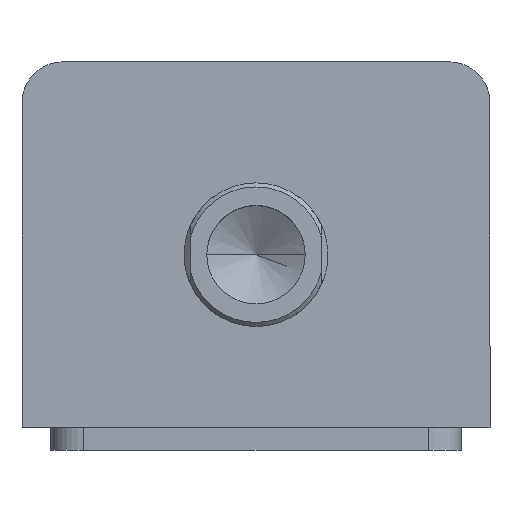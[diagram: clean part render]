
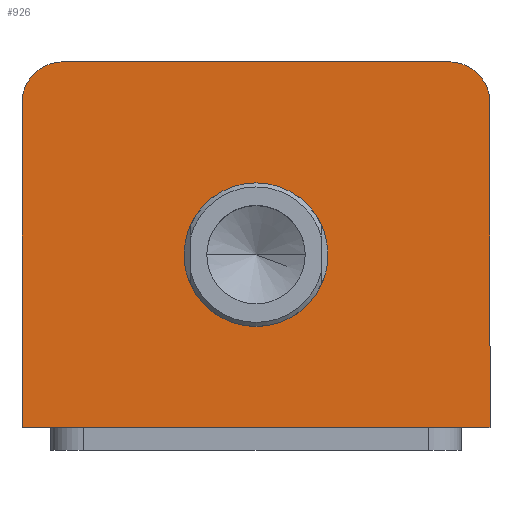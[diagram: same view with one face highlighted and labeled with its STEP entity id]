
A CAD part, top view. The second image highlights one B-rep face of the part: STEP entity #926.
In plain terms, the highlighted planar face has unit normal (0, 0, 1).
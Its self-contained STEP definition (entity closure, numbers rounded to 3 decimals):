
#247 = PLANE ( 'NONE',  #3105 ) ;
#249 = CARTESIAN_POINT ( 'NONE',  ( 0., 0., 112. ) ) ;
#254 = DIRECTION ( 'NONE',  ( 0., 0., 1. ) ) ;
#255 = DIRECTION ( 'NONE',  ( 1., 0., 0. ) ) ;
#558 = CARTESIAN_POINT ( 'NONE',  ( 57., 44.5, 112. ) ) ;
#568 = DIRECTION ( 'NONE',  ( 0., 1., 0. ) ) ;
#710 = FACE_BOUND ( 'NONE', #2628, .T. ) ;
#717 = FACE_OUTER_BOUND ( 'NONE', #2629, .T. ) ;
#842 = LINE ( 'NONE', #558, #850 ) ;
#850 = VECTOR ( 'NONE', #568, 1000. ) ;
#926 = ADVANCED_FACE ( 'NONE', ( #710, #717 ), #247, .T. ) ;
#1290 = ORIENTED_EDGE ( 'NONE', *, *, #3231, .F. ) ;
#1291 = ORIENTED_EDGE ( 'NONE', *, *, #3229, .F. ) ;
#1292 = ORIENTED_EDGE ( 'NONE', *, *, #3253, .T. ) ;
#1293 = ORIENTED_EDGE ( 'NONE', *, *, #3404, .T. ) ;
#1294 = ORIENTED_EDGE ( 'NONE', *, *, #3408, .T. ) ;
#1295 = ORIENTED_EDGE ( 'NONE', *, *, #3238, .T. ) ;
#1296 = ORIENTED_EDGE ( 'NONE', *, *, #3327, .T. ) ;
#1297 = ORIENTED_EDGE ( 'NONE', *, *, #3395, .T. ) ;
#1380 = CARTESIAN_POINT ( 'NONE',  ( -17.5, -2.5, 112. ) ) ;
#1381 = CARTESIAN_POINT ( 'NONE',  ( -57., -44.5, 112. ) ) ;
#1382 = CARTESIAN_POINT ( 'NONE',  ( 17.5, -2.5, 112. ) ) ;
#1384 = CARTESIAN_POINT ( 'NONE',  ( 57., -44.5, 112. ) ) ;
#1398 = CARTESIAN_POINT ( 'NONE',  ( 47., 44.5, 112. ) ) ;
#1401 = CARTESIAN_POINT ( 'NONE',  ( -47., 44.5, 112. ) ) ;
#1420 = CARTESIAN_POINT ( 'NONE',  ( 57., 34.5, 112. ) ) ;
#1423 = CARTESIAN_POINT ( 'NONE',  ( -57., 34.5, 112. ) ) ;
#1801 = CARTESIAN_POINT ( 'NONE',  ( 0., -2.5, 112. ) ) ;
#1802 = DIRECTION ( 'NONE',  ( 0., 0., 1. ) ) ;
#1803 = DIRECTION ( 'NONE',  ( 1., 0., 0. ) ) ;
#1804 = CARTESIAN_POINT ( 'NONE',  ( 0., -2.5, 112. ) ) ;
#1805 = DIRECTION ( 'NONE',  ( 0., 0., 1. ) ) ;
#1806 = DIRECTION ( 'NONE',  ( 1., 0., 0. ) ) ;
#1807 = CARTESIAN_POINT ( 'NONE',  ( -57., -44.5, 112. ) ) ;
#1824 = DIRECTION ( 'NONE',  ( 1., 0., 0. ) ) ;
#1857 = CARTESIAN_POINT ( 'NONE',  ( -57., 44.5, 112. ) ) ;
#1858 = DIRECTION ( 'NONE',  ( -1., 0., 0. ) ) ;
#1903 = VERTEX_POINT ( 'NONE', #1380 ) ;
#1904 = VERTEX_POINT ( 'NONE', #1381 ) ;
#1905 = VERTEX_POINT ( 'NONE', #1382 ) ;
#1907 = VERTEX_POINT ( 'NONE', #1384 ) ;
#1921 = VERTEX_POINT ( 'NONE', #1398 ) ;
#1924 = VERTEX_POINT ( 'NONE', #1401 ) ;
#1943 = VERTEX_POINT ( 'NONE', #1420 ) ;
#1946 = VERTEX_POINT ( 'NONE', #1423 ) ;
#2226 = CIRCLE ( 'NONE', #3594, 10. ) ;
#2252 = CIRCLE ( 'NONE', #3479, 10. ) ;
#2263 = LINE ( 'NONE', #2730, #2268 ) ;
#2268 = VECTOR ( 'NONE', #2731, 1000. ) ;
#2628 = EDGE_LOOP ( 'NONE', ( #1290, #1291 ) ) ;
#2629 = EDGE_LOOP ( 'NONE', ( #1292, #1293, #1294, #1295, #1296, #1297 ) ) ;
#2695 = CARTESIAN_POINT ( 'NONE',  ( 47., 34.5, 112. ) ) ;
#2696 = DIRECTION ( 'NONE',  ( 0., 0., 1. ) ) ;
#2697 = DIRECTION ( 'NONE',  ( 1., 0., 0. ) ) ;
#2721 = CARTESIAN_POINT ( 'NONE',  ( -47., 34.5, 112. ) ) ;
#2722 = DIRECTION ( 'NONE',  ( 0., 0., 1. ) ) ;
#2723 = DIRECTION ( 'NONE',  ( 1., 0., 0. ) ) ;
#2730 = CARTESIAN_POINT ( 'NONE',  ( -57., 44.5, 112. ) ) ;
#2731 = DIRECTION ( 'NONE',  ( 0., -1., 0. ) ) ;
#2853 = CIRCLE ( 'NONE', #3066, 17.5 ) ;
#2857 = CIRCLE ( 'NONE', #3106, 17.5 ) ;
#2863 = LINE ( 'NONE', #1807, #2870 ) ;
#2870 = VECTOR ( 'NONE', #1824, 1000. ) ;
#2894 = LINE ( 'NONE', #1857, #2897 ) ;
#2897 = VECTOR ( 'NONE', #1858, 1000. ) ;
#3066 = AXIS2_PLACEMENT_3D ( 'NONE', #1801, #1802, #1803 ) ;
#3105 = AXIS2_PLACEMENT_3D ( 'NONE', #249, #254, #255 ) ;
#3106 = AXIS2_PLACEMENT_3D ( 'NONE', #1804, #1805, #1806 ) ;
#3229 = EDGE_CURVE ( 'NONE', #1903, #1905, #2853, .T. ) ;
#3231 = EDGE_CURVE ( 'NONE', #1905, #1903, #2857, .T. ) ;
#3238 = EDGE_CURVE ( 'NONE', #1904, #1907, #2863, .T. ) ;
#3253 = EDGE_CURVE ( 'NONE', #1921, #1924, #2894, .T. ) ;
#3327 = EDGE_CURVE ( 'NONE', #1907, #1943, #842, .T. ) ;
#3395 = EDGE_CURVE ( 'NONE', #1943, #1921, #2226, .T. ) ;
#3404 = EDGE_CURVE ( 'NONE', #1924, #1946, #2252, .T. ) ;
#3408 = EDGE_CURVE ( 'NONE', #1946, #1904, #2263, .T. ) ;
#3479 = AXIS2_PLACEMENT_3D ( 'NONE', #2721, #2722, #2723 ) ;
#3594 = AXIS2_PLACEMENT_3D ( 'NONE', #2695, #2696, #2697 ) ;
